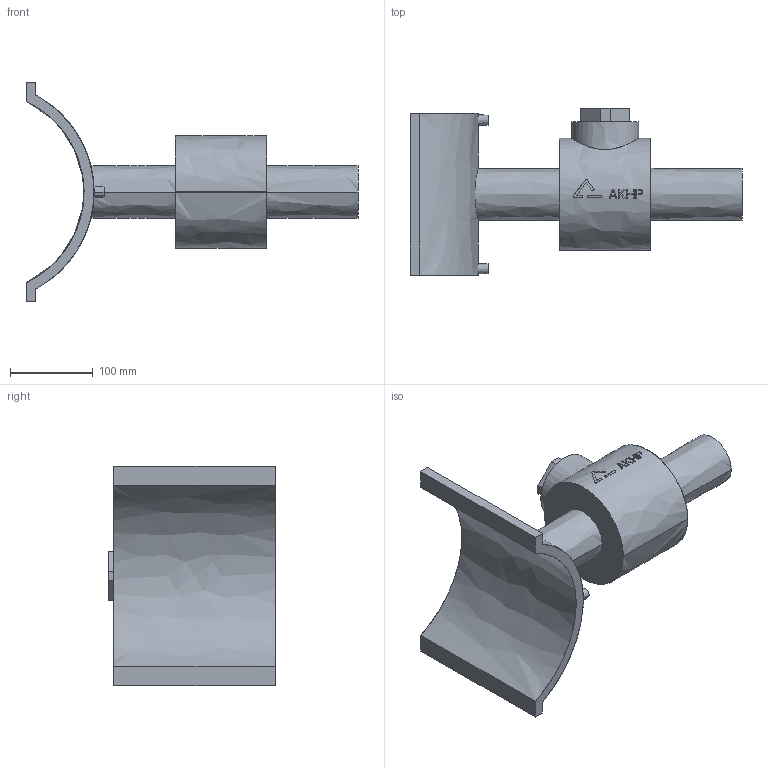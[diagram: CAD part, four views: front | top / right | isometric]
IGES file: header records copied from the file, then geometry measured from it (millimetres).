
Start section:  PTC IGES file: akhp_d225_d63.igs
Global section: file name: akhp_d225_d63.igs; native system: Pro/ENGINEER by Parametric Technology Corporation; preprocessor: 2006140; author: muellerc; organization: Unknown; date: 20060811.101747; units: millimetre
Bounding box: 400 x 201 x 265 mm (x, y, z)
Surface area: 259408 mm2 (no closed solid volume)
Topology: 0 solids, 0 shells, 123 faces, 674 edges, 680 vertices
Faces by surface type: bspline 123
